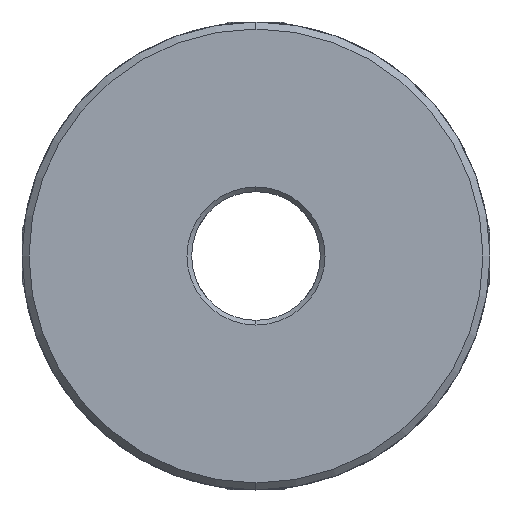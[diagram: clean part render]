
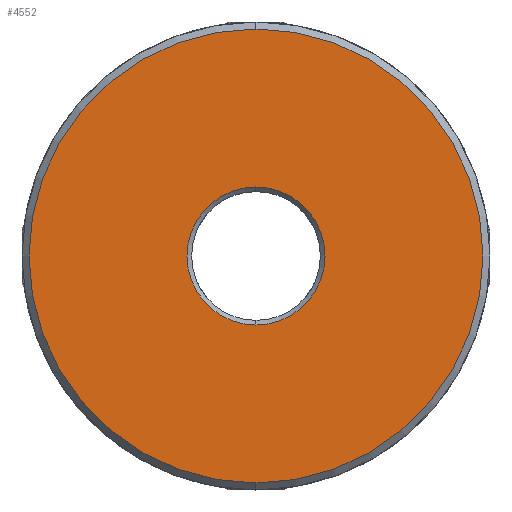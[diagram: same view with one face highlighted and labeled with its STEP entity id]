
A CAD part, front view. The second image highlights one B-rep face of the part: STEP entity #4552.
In plain terms, the highlighted planar face has unit normal (0, -1, 0).
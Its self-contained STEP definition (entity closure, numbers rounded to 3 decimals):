
#151 = ORIENTED_EDGE ( 'NONE', *, *, #4935, .T. ) ;
#171 = EDGE_CURVE ( 'NONE', #3549, #7410, #7412, .T. ) ;
#437 = ORIENTED_EDGE ( 'NONE', *, *, #171, .T. ) ;
#446 = DIRECTION ( 'NONE',  ( 0., 1., 0. ) ) ;
#511 = CIRCLE ( 'NONE', #7577, 19.4 ) ;
#600 = VERTEX_POINT ( 'NONE', #5277 ) ;
#681 = CIRCLE ( 'NONE', #3322, 5.9 ) ;
#980 = EDGE_CURVE ( 'NONE', #7410, #3549, #681, .T. ) ;
#1126 = AXIS2_PLACEMENT_3D ( 'NONE', #3682, #5616, #4476 ) ;
#1138 = DIRECTION ( 'NONE',  ( 0., 0., 1. ) ) ;
#1170 = CARTESIAN_POINT ( 'NONE',  ( 0., 0., 0. ) ) ;
#1575 = EDGE_LOOP ( 'NONE', ( #6227, #437 ) ) ;
#1996 = CARTESIAN_POINT ( 'NONE',  ( 0., 0., -5.9 ) ) ;
#2268 = DIRECTION ( 'NONE',  ( 0., 0., 1. ) ) ;
#2688 = AXIS2_PLACEMENT_3D ( 'NONE', #3210, #4407, #4486 ) ;
#3210 = CARTESIAN_POINT ( 'NONE',  ( 0., 0., 0. ) ) ;
#3322 = AXIS2_PLACEMENT_3D ( 'NONE', #5771, #446, #2268 ) ;
#3549 = VERTEX_POINT ( 'NONE', #5392 ) ;
#3591 = CARTESIAN_POINT ( 'NONE',  ( 0., 0., 0. ) ) ;
#3646 = CARTESIAN_POINT ( 'NONE',  ( 0., 0., 19.4 ) ) ;
#3677 = DIRECTION ( 'NONE',  ( 0., -1., 0. ) ) ;
#3682 = CARTESIAN_POINT ( 'NONE',  ( 24.74, 0., -50. ) ) ;
#3703 = CIRCLE ( 'NONE', #2688, 19.4 ) ;
#4066 = EDGE_CURVE ( 'NONE', #600, #6118, #511, .T. ) ;
#4407 = DIRECTION ( 'NONE',  ( 0., -1., 0. ) ) ;
#4476 = DIRECTION ( 'NONE',  ( 0., 0., 1. ) ) ;
#4486 = DIRECTION ( 'NONE',  ( 0., 0., 1. ) ) ;
#4552 = ADVANCED_FACE ( 'NONE', ( #6956, #7717 ), #6057, .F. ) ;
#4780 = ORIENTED_EDGE ( 'NONE', *, *, #4066, .T. ) ;
#4935 = EDGE_CURVE ( 'NONE', #6118, #600, #3703, .T. ) ;
#5277 = CARTESIAN_POINT ( 'NONE',  ( 0., 0., -19.4 ) ) ;
#5392 = CARTESIAN_POINT ( 'NONE',  ( 0., 0., 5.9 ) ) ;
#5471 = DIRECTION ( 'NONE',  ( 0., 0., 1. ) ) ;
#5616 = DIRECTION ( 'NONE',  ( 0., 1., 0. ) ) ;
#5771 = CARTESIAN_POINT ( 'NONE',  ( 0., 0., 0. ) ) ;
#5948 = DIRECTION ( 'NONE',  ( 0., 1., 0. ) ) ;
#6057 = PLANE ( 'NONE',  #1126 ) ;
#6118 = VERTEX_POINT ( 'NONE', #3646 ) ;
#6227 = ORIENTED_EDGE ( 'NONE', *, *, #980, .T. ) ;
#6956 = FACE_BOUND ( 'NONE', #1575, .T. ) ;
#7164 = EDGE_LOOP ( 'NONE', ( #151, #4780 ) ) ;
#7410 = VERTEX_POINT ( 'NONE', #1996 ) ;
#7412 = CIRCLE ( 'NONE', #7760, 5.9 ) ;
#7577 = AXIS2_PLACEMENT_3D ( 'NONE', #3591, #3677, #5471 ) ;
#7717 = FACE_OUTER_BOUND ( 'NONE', #7164, .T. ) ;
#7760 = AXIS2_PLACEMENT_3D ( 'NONE', #1170, #5948, #1138 ) ;
